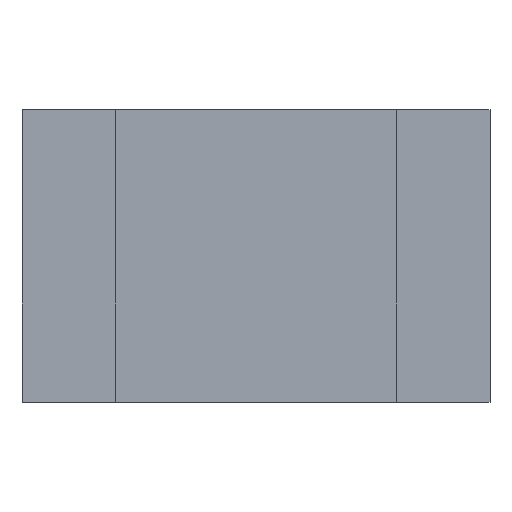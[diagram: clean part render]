
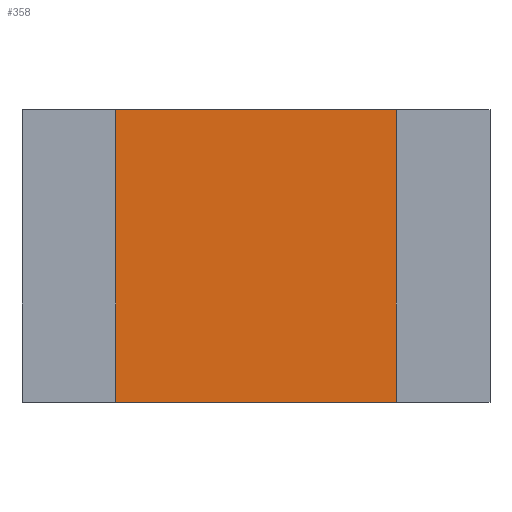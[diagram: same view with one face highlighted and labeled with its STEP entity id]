
A CAD part, top view. The second image highlights one B-rep face of the part: STEP entity #358.
In plain terms, the highlighted planar face has unit normal (0, 0, 1).
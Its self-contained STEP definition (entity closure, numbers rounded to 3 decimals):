
#358=ADVANCED_FACE('',(#586),#588,.T.);
#586=FACE_BOUND('',#587,.T.);
#587=EDGE_LOOP('',(#736,#737,#738,#739));
#588=PLANE('',#589);
#589=AXIS2_PLACEMENT_3D('',#590,#591,#592);
#590=CARTESIAN_POINT('',(0.,0.,0.39));
#591=DIRECTION('',(0.,0.,1.));
#592=DIRECTION('',(-1.,0.,0.));
#736=ORIENTED_EDGE('',*,*,#806,.T.);
#737=ORIENTED_EDGE('',*,*,#810,.T.);
#738=ORIENTED_EDGE('',*,*,#813,.T.);
#739=ORIENTED_EDGE('',*,*,#815,.T.);
#806=EDGE_CURVE('',#921,#919,#922,.T.);
#810=EDGE_CURVE('',#919,#926,#928,.T.);
#813=EDGE_CURVE('',#926,#931,#933,.T.);
#815=EDGE_CURVE('',#931,#921,#935,.T.);
#919=VERTEX_POINT('',#1161);
#921=VERTEX_POINT('',#1165);
#922=LINE('',#1166,#1167);
#926=VERTEX_POINT('',#1176);
#928=LINE('',#1180,#1181);
#931=VERTEX_POINT('',#1187);
#933=LINE('',#1191,#1192);
#935=LINE('',#1197,#1198);
#1161=CARTESIAN_POINT('',(-0.6,-0.625,0.39));
#1165=CARTESIAN_POINT('',(-0.6,0.625,0.39));
#1166=CARTESIAN_POINT('',(-0.6,0.625,0.39));
#1167=VECTOR('',#1168,1.);
#1168=DIRECTION('',(0.,-1.,0.));
#1176=CARTESIAN_POINT('',(0.6,-0.625,0.39));
#1180=CARTESIAN_POINT('',(-0.6,-0.625,0.39));
#1181=VECTOR('',#1182,1.);
#1182=DIRECTION('',(1.,0.,0.));
#1187=CARTESIAN_POINT('',(0.6,0.625,0.39));
#1191=CARTESIAN_POINT('',(0.6,-0.625,0.39));
#1192=VECTOR('',#1193,1.);
#1193=DIRECTION('',(0.,1.,0.));
#1197=CARTESIAN_POINT('',(0.6,0.625,0.39));
#1198=VECTOR('',#1199,1.);
#1199=DIRECTION('',(-1.,0.,0.));
